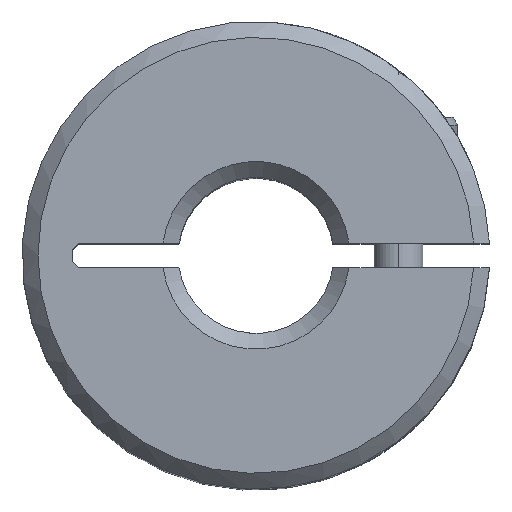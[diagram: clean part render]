
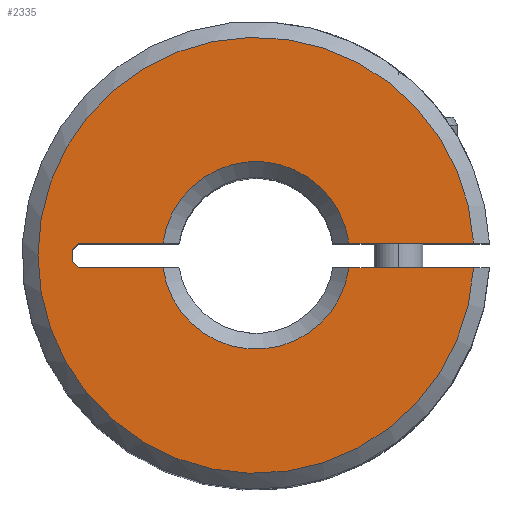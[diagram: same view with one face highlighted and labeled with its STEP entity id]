
A CAD part, top view. The second image highlights one B-rep face of the part: STEP entity #2335.
In plain terms, the highlighted planar face has unit normal (0, 0, 1).
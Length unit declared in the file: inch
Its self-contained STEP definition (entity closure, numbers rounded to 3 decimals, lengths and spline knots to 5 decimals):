
#139=CARTESIAN_POINT('',(0.,0.,0.43307));
#140=DIRECTION('',(0.,0.,1.));
#141=DIRECTION('',(0.998,0.056,0.));
#142=AXIS2_PLACEMENT_3D('',#139,#140,#141);
#175=DIRECTION('',(-0.707,0.707,0.));
#176=VECTOR('',#175,0.01096);
#177=CARTESIAN_POINT('',(-0.22426,-0.0155,0.43307));
#178=LINE('',#177,#176);
#179=DIRECTION('',(-1.,0.,0.));
#180=VECTOR('',#179,0.10685);
#181=CARTESIAN_POINT('',(-0.11741,-0.0155,0.43307));
#182=LINE('',#181,#180);
#183=CARTESIAN_POINT('',(0.,0.,0.43307));
#184=DIRECTION('',(0.,0.,-1.));
#185=DIRECTION('',(0.991,-0.131,0.));
#186=AXIS2_PLACEMENT_3D('',#183,#184,#185);
#188=DIRECTION('',(-1.,0.,0.));
#189=VECTOR('',#188,0.15743);
#190=CARTESIAN_POINT('',(0.27484,-0.0155,0.43307));
#191=LINE('',#190,#189);
#192=DIRECTION('',(1.,0.,0.));
#193=VECTOR('',#192,0.15743);
#194=CARTESIAN_POINT('',(0.11741,0.0155,0.43307));
#195=LINE('',#194,#193);
#196=CARTESIAN_POINT('',(0.,0.,0.43307));
#197=DIRECTION('',(0.,0.,-1.));
#198=DIRECTION('',(-0.991,0.131,0.));
#199=AXIS2_PLACEMENT_3D('',#196,#197,#198);
#201=DIRECTION('',(1.,0.,0.));
#202=VECTOR('',#201,0.10685);
#203=CARTESIAN_POINT('',(-0.22426,0.0155,0.43307));
#204=LINE('',#203,#202);
#205=DIRECTION('',(0.707,0.707,0.));
#206=VECTOR('',#205,0.01096);
#207=CARTESIAN_POINT('',(-0.23201,0.00775,
0.43307));
#208=LINE('',#207,#206);
#209=DIRECTION('',(0.,1.,0.));
#210=VECTOR('',#209,0.0155);
#211=CARTESIAN_POINT('',(-0.23201,-0.00775,
0.43307));
#212=LINE('',#211,#210);
#1848=CARTESIAN_POINT('',(0.27484,0.0155,0.43307));
#1849=CARTESIAN_POINT('',(0.27484,-0.0155,0.43307));
#1850=VERTEX_POINT('',#1848);
#1851=VERTEX_POINT('',#1849);
#1856=CARTESIAN_POINT('',(-0.22426,-0.0155,0.43307));
#1857=CARTESIAN_POINT('',(-0.23201,-0.00775,
0.43307));
#1858=VERTEX_POINT('',#1856);
#1859=VERTEX_POINT('',#1857);
#1860=CARTESIAN_POINT('',(-0.11741,-0.0155,0.43307));
#1861=VERTEX_POINT('',#1860);
#1862=CARTESIAN_POINT('',(0.11741,-0.0155,0.43307));
#1863=VERTEX_POINT('',#1862);
#1864=CARTESIAN_POINT('',(0.11741,0.0155,0.43307));
#1865=VERTEX_POINT('',#1864);
#1866=CARTESIAN_POINT('',(-0.11741,0.0155,0.43307));
#1867=VERTEX_POINT('',#1866);
#1868=CARTESIAN_POINT('',(-0.22426,0.0155,0.43307));
#1869=VERTEX_POINT('',#1868);
#1870=CARTESIAN_POINT('',(-0.23201,0.00775,
0.43307));
#1871=VERTEX_POINT('',#1870);
#2309=CARTESIAN_POINT('',(0.,0.,0.43307));
#2310=DIRECTION('',(0.,0.,1.));
#2311=DIRECTION('',(1.,0.,0.));
#2312=AXIS2_PLACEMENT_3D('',#2309,#2310,#2311);
#2313=PLANE('',#2312);
#2315=ORIENTED_EDGE('',*,*,#2314,.F.);
#2317=ORIENTED_EDGE('',*,*,#2316,.F.);
#2319=ORIENTED_EDGE('',*,*,#2318,.F.);
#2321=ORIENTED_EDGE('',*,*,#2320,.F.);
#2322=ORIENTED_EDGE('',*,*,#2286,.F.);
#2324=ORIENTED_EDGE('',*,*,#2323,.F.);
#2326=ORIENTED_EDGE('',*,*,#2325,.F.);
#2328=ORIENTED_EDGE('',*,*,#2327,.F.);
#2330=ORIENTED_EDGE('',*,*,#2329,.F.);
#2332=ORIENTED_EDGE('',*,*,#2331,.F.);
#2333=EDGE_LOOP('',(#2315,#2317,#2319,#2321,#2322,#2324,#2326,#2328,#2330,
#2332));
#2334=FACE_OUTER_BOUND('',#2333,.F.);
#143=CIRCLE('',#142,0.27528);
#187=CIRCLE('',#186,0.11843);
#200=CIRCLE('',#199,0.11843);
#2286=EDGE_CURVE('',#1850,#1851,#143,.T.);
#2314=EDGE_CURVE('',#1858,#1859,#178,.T.);
#2316=EDGE_CURVE('',#1861,#1858,#182,.T.);
#2318=EDGE_CURVE('',#1863,#1861,#187,.T.);
#2320=EDGE_CURVE('',#1851,#1863,#191,.T.);
#2323=EDGE_CURVE('',#1865,#1850,#195,.T.);
#2325=EDGE_CURVE('',#1867,#1865,#200,.T.);
#2327=EDGE_CURVE('',#1869,#1867,#204,.T.);
#2329=EDGE_CURVE('',#1871,#1869,#208,.T.);
#2331=EDGE_CURVE('',#1859,#1871,#212,.T.);
#2335=ADVANCED_FACE('',(#2334),#2313,.T.);
